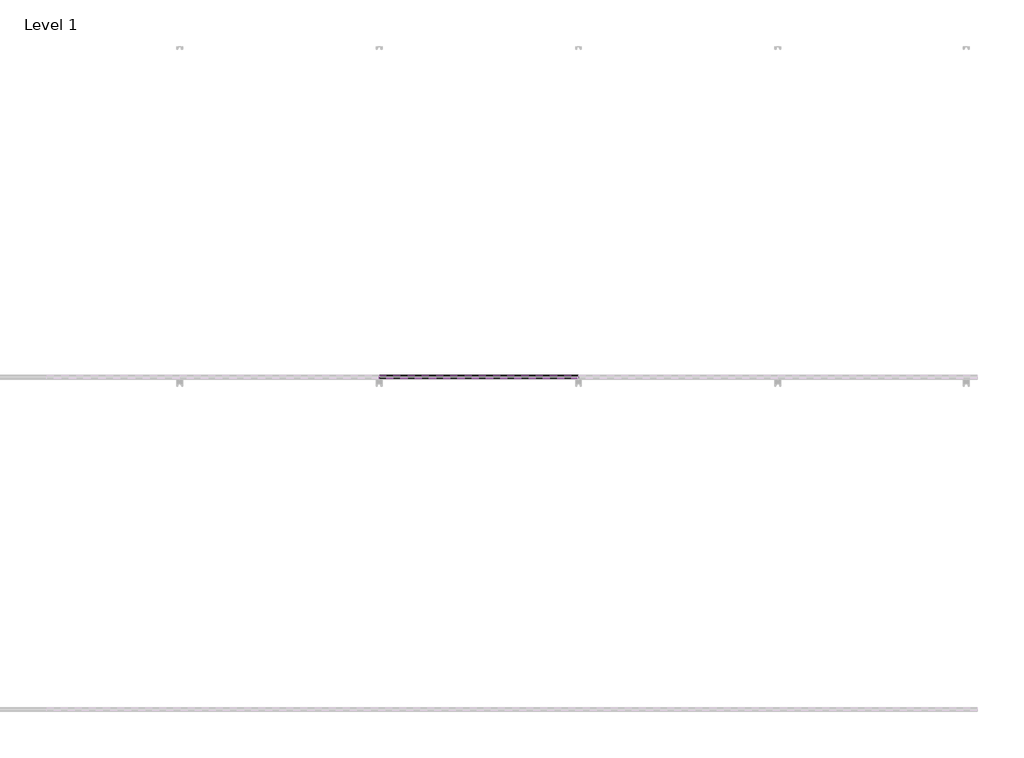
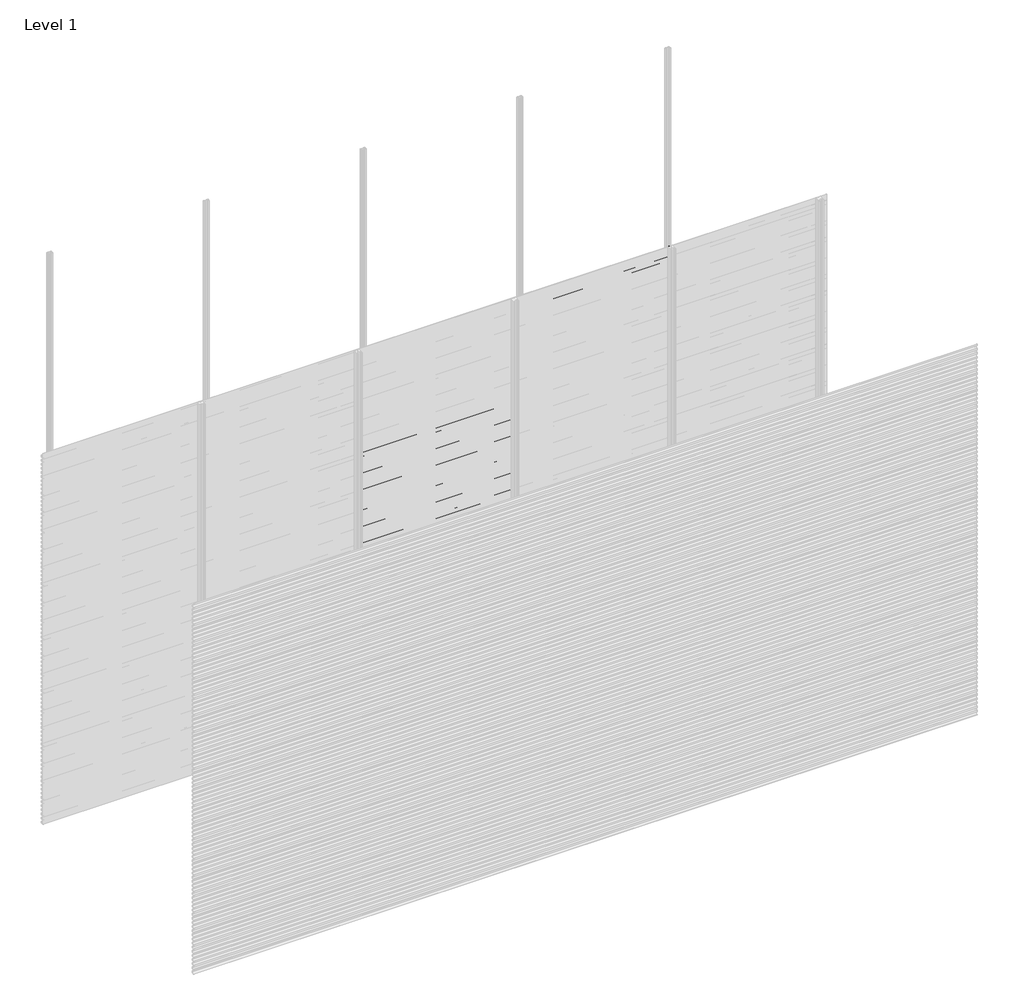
# One storey, part 60 of 77: 72 proxies.
"""IFC4 building model written with IfcOpenShell, lengths in millimetres."""

from ifc_helpers import new_model, si_unit, frame, origin, place, context, project, spatial, polyline, outline, extrude, element, save

model = new_model("IFC4")

# Units and contexts
model_context = context("Model", 3, world=origin())
ifc_project = project(units=[si_unit("LENGTHUNIT", "METRE", prefix="MILLI")], contexts=[model_context])

# Site, building, storey
site = spatial("IfcSite", under=ifc_project)
building = spatial("IfcBuilding", under=site)
storey = spatial("IfcBuildingStorey", under=building, Name="Level 1", Elevation=0.0)

# Proxies
placement = place(None, origin())
element("IfcBuildingElementProxy", 1, Name="Wall Sweeps", at=placement, inside=storey, context=model_context, shape_type="SweptSolid", body=[
    extrude(outline(polyline([(-11978.6, 2206.6359887), (-11998.0, 2217.8366691), (-11998.0, 2231.1), (-11997.0, 2231.1), (-11997.0, 2218.4191057), (-11977.6, 2207.2185105), (-11977.6, 2193.6185105), (-11978.6, 2195.1953129), (-11978.6, 2201.0032062), (-11995.9773817, 2192.9), (-11996.4, 2193.8063078), (-11978.6, 2202.1065841), (-11978.6, 2206.6359887)])), frame((2400.0, 0.0, 0.0), z_axis=(1.0, 0.0, 0.0), x_axis=(0.0, 1.0, 0.0)), (0.0, 0.0, 1.0), 1200.0),
])
element("IfcBuildingElementProxy", 2, Name="Wall Sweeps", at=placement, inside=storey, context=model_context, shape_type="SweptSolid", body=[
    extrude(outline(polyline([(-11978.6, 2173.3359887), (-11998.0, 2184.5366691), (-11998.0, 2197.8), (-11997.0, 2197.8), (-11997.0, 2185.1191057), (-11977.6, 2173.9185105), (-11977.6, 2160.3185105), (-11978.6, 2161.8953129), (-11978.6, 2167.7032062), (-11995.9773817, 2159.6), (-11996.4, 2160.5063078), (-11978.6, 2168.8065841), (-11978.6, 2173.3359887)])), frame((2400.0, 0.0, 0.0), z_axis=(1.0, 0.0, 0.0), x_axis=(0.0, 1.0, 0.0)), (0.0, 0.0, 1.0), 1200.0),
])
element("IfcBuildingElementProxy", 3, Name="Wall Sweeps", at=placement, inside=storey, context=model_context, shape_type="SweptSolid", body=[
    extrude(outline(polyline([(-11978.6, 2140.0359887), (-11998.0, 2151.2366691), (-11998.0, 2164.5), (-11997.0, 2164.5), (-11997.0, 2151.8191057), (-11977.6, 2140.6185105), (-11977.6, 2127.0185105), (-11978.6, 2128.5953129), (-11978.6, 2134.4032062), (-11995.9773817, 2126.3), (-11996.4, 2127.2063078), (-11978.6, 2135.5065841), (-11978.6, 2140.0359887)])), frame((2400.0, 0.0, 0.0), z_axis=(1.0, 0.0, 0.0), x_axis=(0.0, 1.0, 0.0)), (0.0, 0.0, 1.0), 1200.0),
])
element("IfcBuildingElementProxy", 4, Name="Wall Sweeps", at=placement, inside=storey, context=model_context, shape_type="SweptSolid", body=[
    extrude(outline(polyline([(-11978.6, 2106.7359887), (-11998.0, 2117.9366691), (-11998.0, 2131.2), (-11997.0, 2131.2), (-11997.0, 2118.5191057), (-11977.6, 2107.3185105), (-11977.6, 2093.7185105), (-11978.6, 2095.2953129), (-11978.6, 2101.1032062), (-11995.9773817, 2093.0), (-11996.4, 2093.9063078), (-11978.6, 2102.2065841), (-11978.6, 2106.7359887)])), frame((2400.0, 0.0, 0.0), z_axis=(1.0, 0.0, 0.0), x_axis=(0.0, 1.0, 0.0)), (0.0, 0.0, 1.0), 1200.0),
])
element("IfcBuildingElementProxy", 5, Name="Wall Sweeps", at=placement, inside=storey, context=model_context, shape_type="SweptSolid", body=[
    extrude(outline(polyline([(-11978.6, 2073.4359887), (-11998.0, 2084.6366691), (-11998.0, 2097.9), (-11997.0, 2097.9), (-11997.0, 2085.2191057), (-11977.6, 2074.0185105), (-11977.6, 2060.4185105), (-11978.6, 2061.9953129), (-11978.6, 2067.8032062), (-11995.9773817, 2059.7), (-11996.4, 2060.6063078), (-11978.6, 2068.9065841), (-11978.6, 2073.4359887)])), frame((2400.0, 0.0, 0.0), z_axis=(1.0, 0.0, 0.0), x_axis=(0.0, 1.0, 0.0)), (0.0, 0.0, 1.0), 1200.0),
])
element("IfcBuildingElementProxy", 6, Name="Wall Sweeps", at=placement, inside=storey, context=model_context, shape_type="SweptSolid", body=[
    extrude(outline(polyline([(-11978.6, 2040.1359887), (-11998.0, 2051.3366691), (-11998.0, 2064.6), (-11997.0, 2064.6), (-11997.0, 2051.9191057), (-11977.6, 2040.7185105), (-11977.6, 2027.1185105), (-11978.6, 2028.6953129), (-11978.6, 2034.5032062), (-11995.9773817, 2026.4), (-11996.4, 2027.3063078), (-11978.6, 2035.6065841), (-11978.6, 2040.1359887)])), frame((2400.0, 0.0, 0.0), z_axis=(1.0, 0.0, 0.0), x_axis=(0.0, 1.0, 0.0)), (0.0, 0.0, 1.0), 1200.0),
])
element("IfcBuildingElementProxy", 7, Name="Wall Sweeps", at=placement, inside=storey, context=model_context, shape_type="SweptSolid", body=[
    extrude(outline(polyline([(-11978.6, 2006.8359887), (-11998.0, 2018.0366691), (-11998.0, 2031.3), (-11997.0, 2031.3), (-11997.0, 2018.6191057), (-11977.6, 2007.4185105), (-11977.6, 1993.8185105), (-11978.6, 1995.3953129), (-11978.6, 2001.2032062), (-11995.9773817, 1993.1), (-11996.4, 1994.0063078), (-11978.6, 2002.3065841), (-11978.6, 2006.8359887)])), frame((2400.0, 0.0, 0.0), z_axis=(1.0, 0.0, 0.0), x_axis=(0.0, 1.0, 0.0)), (0.0, 0.0, 1.0), 1200.0),
])
element("IfcBuildingElementProxy", 8, Name="Wall Sweeps", at=placement, inside=storey, context=model_context, shape_type="SweptSolid", body=[
    extrude(outline(polyline([(-11978.6, 1973.5359887), (-11998.0, 1984.7366691), (-11998.0, 1998.0), (-11997.0, 1998.0), (-11997.0, 1985.3191057), (-11977.6, 1974.1185105), (-11977.6, 1960.5185105), (-11978.6, 1962.0953129), (-11978.6, 1967.9032062), (-11995.9773817, 1959.8), (-11996.4, 1960.7063078), (-11978.6, 1969.0065841), (-11978.6, 1973.5359887)])), frame((2400.0, 0.0, 0.0), z_axis=(1.0, 0.0, 0.0), x_axis=(0.0, 1.0, 0.0)), (0.0, 0.0, 1.0), 1200.0),
])
element("IfcBuildingElementProxy", 9, Name="Wall Sweeps", at=placement, inside=storey, context=model_context, shape_type="SweptSolid", body=[
    extrude(outline(polyline([(-11978.6, 1940.2359887), (-11998.0, 1951.4366691), (-11998.0, 1964.7), (-11997.0, 1964.7), (-11997.0, 1952.0191057), (-11977.6, 1940.8185105), (-11977.6, 1927.2185105), (-11978.6, 1928.7953129), (-11978.6, 1934.6032062), (-11995.9773817, 1926.5), (-11996.4, 1927.4063078), (-11978.6, 1935.7065841), (-11978.6, 1940.2359887)])), frame((2400.0, 0.0, 0.0), z_axis=(1.0, 0.0, 0.0), x_axis=(0.0, 1.0, 0.0)), (0.0, 0.0, 1.0), 1200.0),
])
element("IfcBuildingElementProxy", 10, Name="Wall Sweeps", at=placement, inside=storey, context=model_context, shape_type="SweptSolid", body=[
    extrude(outline(polyline([(-11978.6, 1906.9359887), (-11998.0, 1918.1366691), (-11998.0, 1931.4), (-11997.0, 1931.4), (-11997.0, 1918.7191057), (-11977.6, 1907.5185105), (-11977.6, 1893.9185105), (-11978.6, 1895.4953129), (-11978.6, 1901.3032062), (-11995.9773817, 1893.2), (-11996.4, 1894.1063078), (-11978.6, 1902.4065841), (-11978.6, 1906.9359887)])), frame((2400.0, 0.0, 0.0), z_axis=(1.0, 0.0, 0.0), x_axis=(0.0, 1.0, 0.0)), (0.0, 0.0, 1.0), 1200.0),
])
element("IfcBuildingElementProxy", 11, Name="Wall Sweeps", at=placement, inside=storey, context=model_context, shape_type="SweptSolid", body=[
    extrude(outline(polyline([(-11978.6, 1873.6359887), (-11998.0, 1884.8366691), (-11998.0, 1898.1), (-11997.0, 1898.1), (-11997.0, 1885.4191057), (-11977.6, 1874.2185105), (-11977.6, 1860.6185105), (-11978.6, 1862.1953129), (-11978.6, 1868.0032062), (-11995.9773817, 1859.9), (-11996.4, 1860.8063078), (-11978.6, 1869.1065841), (-11978.6, 1873.6359887)])), frame((2400.0, 0.0, 0.0), z_axis=(1.0, 0.0, 0.0), x_axis=(0.0, 1.0, 0.0)), (0.0, 0.0, 1.0), 1200.0),
])
element("IfcBuildingElementProxy", 12, Name="Wall Sweeps", at=placement, inside=storey, context=model_context, shape_type="SweptSolid", body=[
    extrude(outline(polyline([(-11978.6, 1840.3359887), (-11998.0, 1851.5366691), (-11998.0, 1864.8), (-11997.0, 1864.8), (-11997.0, 1852.1191057), (-11977.6, 1840.9185105), (-11977.6, 1827.3185105), (-11978.6, 1828.8953129), (-11978.6, 1834.7032062), (-11995.9773817, 1826.6), (-11996.4, 1827.5063078), (-11978.6, 1835.8065841), (-11978.6, 1840.3359887)])), frame((2400.0, 0.0, 0.0), z_axis=(1.0, 0.0, 0.0), x_axis=(0.0, 1.0, 0.0)), (0.0, 0.0, 1.0), 1200.0),
])
element("IfcBuildingElementProxy", 13, Name="Wall Sweeps", at=placement, inside=storey, context=model_context, shape_type="SweptSolid", body=[
    extrude(outline(polyline([(-11978.6, 1807.0359887), (-11998.0, 1818.2366691), (-11998.0, 1831.5), (-11997.0, 1831.5), (-11997.0, 1818.8191057), (-11977.6, 1807.6185105), (-11977.6, 1794.0185105), (-11978.6, 1795.5953129), (-11978.6, 1801.4032062), (-11995.9773817, 1793.3), (-11996.4, 1794.2063078), (-11978.6, 1802.5065841), (-11978.6, 1807.0359887)])), frame((2400.0, 0.0, 0.0), z_axis=(1.0, 0.0, 0.0), x_axis=(0.0, 1.0, 0.0)), (0.0, 0.0, 1.0), 1200.0),
])
element("IfcBuildingElementProxy", 14, Name="Wall Sweeps", at=placement, inside=storey, context=model_context, shape_type="SweptSolid", body=[
    extrude(outline(polyline([(-11978.6, 1773.7359887), (-11998.0, 1784.9366691), (-11998.0, 1798.2), (-11997.0, 1798.2), (-11997.0, 1785.5191057), (-11977.6, 1774.3185105), (-11977.6, 1760.7185105), (-11978.6, 1762.2953129), (-11978.6, 1768.1032062), (-11995.9773817, 1760.0), (-11996.4, 1760.9063078), (-11978.6, 1769.2065841), (-11978.6, 1773.7359887)])), frame((2400.0, 0.0, 0.0), z_axis=(1.0, 0.0, 0.0), x_axis=(0.0, 1.0, 0.0)), (0.0, 0.0, 1.0), 1200.0),
])
element("IfcBuildingElementProxy", 15, Name="Wall Sweeps", at=placement, inside=storey, context=model_context, shape_type="SweptSolid", body=[
    extrude(outline(polyline([(-11978.6, 1740.4359887), (-11998.0, 1751.6366691), (-11998.0, 1764.9), (-11997.0, 1764.9), (-11997.0, 1752.2191057), (-11977.6, 1741.0185105), (-11977.6, 1727.4185105), (-11978.6, 1728.9953129), (-11978.6, 1734.8032062), (-11995.9773817, 1726.7), (-11996.4, 1727.6063078), (-11978.6, 1735.9065841), (-11978.6, 1740.4359887)])), frame((2400.0, 0.0, 0.0), z_axis=(1.0, 0.0, 0.0), x_axis=(0.0, 1.0, 0.0)), (0.0, 0.0, 1.0), 1200.0),
])
element("IfcBuildingElementProxy", 16, Name="Wall Sweeps", at=placement, inside=storey, context=model_context, shape_type="SweptSolid", body=[
    extrude(outline(polyline([(-11978.6, 1707.1359887), (-11998.0, 1718.3366691), (-11998.0, 1731.6), (-11997.0, 1731.6), (-11997.0, 1718.9191057), (-11977.6, 1707.7185105), (-11977.6, 1694.1185105), (-11978.6, 1695.6953129), (-11978.6, 1701.5032062), (-11995.9773817, 1693.4), (-11996.4, 1694.3063078), (-11978.6, 1702.6065841), (-11978.6, 1707.1359887)])), frame((2400.0, 0.0, 0.0), z_axis=(1.0, 0.0, 0.0), x_axis=(0.0, 1.0, 0.0)), (0.0, 0.0, 1.0), 1200.0),
])
element("IfcBuildingElementProxy", 17, Name="Wall Sweeps", at=placement, inside=storey, context=model_context, shape_type="SweptSolid", body=[
    extrude(outline(polyline([(-11978.6, 1673.8359887), (-11998.0, 1685.0366691), (-11998.0, 1698.3), (-11997.0, 1698.3), (-11997.0, 1685.6191057), (-11977.6, 1674.4185105), (-11977.6, 1660.8185105), (-11978.6, 1662.3953129), (-11978.6, 1668.2032062), (-11995.9773817, 1660.1), (-11996.4, 1661.0063078), (-11978.6, 1669.3065841), (-11978.6, 1673.8359887)])), frame((2400.0, 0.0, 0.0), z_axis=(1.0, 0.0, 0.0), x_axis=(0.0, 1.0, 0.0)), (0.0, 0.0, 1.0), 1200.0),
])
element("IfcBuildingElementProxy", 18, Name="Wall Sweeps", at=placement, inside=storey, context=model_context, shape_type="SweptSolid", body=[
    extrude(outline(polyline([(-11978.6, 1640.5359887), (-11998.0, 1651.7366691), (-11998.0, 1665.0), (-11997.0, 1665.0), (-11997.0, 1652.3191057), (-11977.6, 1641.1185105), (-11977.6, 1627.5185105), (-11978.6, 1629.0953129), (-11978.6, 1634.9032062), (-11995.9773817, 1626.8), (-11996.4, 1627.7063078), (-11978.6, 1636.0065841), (-11978.6, 1640.5359887)])), frame((2400.0, 0.0, 0.0), z_axis=(1.0, 0.0, 0.0), x_axis=(0.0, 1.0, 0.0)), (0.0, 0.0, 1.0), 1200.0),
])
element("IfcBuildingElementProxy", 19, Name="Wall Sweeps", at=placement, inside=storey, context=model_context, shape_type="SweptSolid", body=[
    extrude(outline(polyline([(-11978.6, 1607.2359887), (-11998.0, 1618.4366691), (-11998.0, 1631.7), (-11997.0, 1631.7), (-11997.0, 1619.0191057), (-11977.6, 1607.8185105), (-11977.6, 1594.2185105), (-11978.6, 1595.7953129), (-11978.6, 1601.6032062), (-11995.9773817, 1593.5), (-11996.4, 1594.4063078), (-11978.6, 1602.7065841), (-11978.6, 1607.2359887)])), frame((2400.0, 0.0, 0.0), z_axis=(1.0, 0.0, 0.0), x_axis=(0.0, 1.0, 0.0)), (0.0, 0.0, 1.0), 1200.0),
])
element("IfcBuildingElementProxy", 20, Name="Wall Sweeps", at=placement, inside=storey, context=model_context, shape_type="SweptSolid", body=[
    extrude(outline(polyline([(-11978.6, 1573.9359887), (-11998.0, 1585.1366691), (-11998.0, 1598.4), (-11997.0, 1598.4), (-11997.0, 1585.7191057), (-11977.6, 1574.5185105), (-11977.6, 1560.9185105), (-11978.6, 1562.4953129), (-11978.6, 1568.3032062), (-11995.9773817, 1560.2), (-11996.4, 1561.1063078), (-11978.6, 1569.4065841), (-11978.6, 1573.9359887)])), frame((2400.0, 0.0, 0.0), z_axis=(1.0, 0.0, 0.0), x_axis=(0.0, 1.0, 0.0)), (0.0, 0.0, 1.0), 1200.0),
])
element("IfcBuildingElementProxy", 21, Name="Wall Sweeps", at=placement, inside=storey, context=model_context, shape_type="SweptSolid", body=[
    extrude(outline(polyline([(-11978.6, 1540.6359887), (-11998.0, 1551.8366691), (-11998.0, 1565.1), (-11997.0, 1565.1), (-11997.0, 1552.4191057), (-11977.6, 1541.2185105), (-11977.6, 1527.6185105), (-11978.6, 1529.1953129), (-11978.6, 1535.0032062), (-11995.9773817, 1526.9), (-11996.4, 1527.8063078), (-11978.6, 1536.1065841), (-11978.6, 1540.6359887)])), frame((2400.0, 0.0, 0.0), z_axis=(1.0, 0.0, 0.0), x_axis=(0.0, 1.0, 0.0)), (0.0, 0.0, 1.0), 1200.0),
])
element("IfcBuildingElementProxy", 22, Name="Wall Sweeps", at=placement, inside=storey, context=model_context, shape_type="SweptSolid", body=[
    extrude(outline(polyline([(-11978.6, 1507.3359887), (-11998.0, 1518.5366691), (-11998.0, 1531.8), (-11997.0, 1531.8), (-11997.0, 1519.1191057), (-11977.6, 1507.9185105), (-11977.6, 1494.3185105), (-11978.6, 1495.8953129), (-11978.6, 1501.7032062), (-11995.9773817, 1493.6), (-11996.4, 1494.5063078), (-11978.6, 1502.8065841), (-11978.6, 1507.3359887)])), frame((2400.0, 0.0, 0.0), z_axis=(1.0, 0.0, 0.0), x_axis=(0.0, 1.0, 0.0)), (0.0, 0.0, 1.0), 1200.0),
])
element("IfcBuildingElementProxy", 23, Name="Wall Sweeps", at=placement, inside=storey, context=model_context, shape_type="SweptSolid", body=[
    extrude(outline(polyline([(-11978.6, 1474.0359887), (-11998.0, 1485.2366691), (-11998.0, 1498.5), (-11997.0, 1498.5), (-11997.0, 1485.8191057), (-11977.6, 1474.6185105), (-11977.6, 1461.0185105), (-11978.6, 1462.5953129), (-11978.6, 1468.4032062), (-11995.9773817, 1460.3), (-11996.4, 1461.2063078), (-11978.6, 1469.5065841), (-11978.6, 1474.0359887)])), frame((2400.0, 0.0, 0.0), z_axis=(1.0, 0.0, 0.0), x_axis=(0.0, 1.0, 0.0)), (0.0, 0.0, 1.0), 1200.0),
])
element("IfcBuildingElementProxy", 24, Name="Wall Sweeps", at=placement, inside=storey, context=model_context, shape_type="SweptSolid", body=[
    extrude(outline(polyline([(-11978.6, 1440.7359887), (-11998.0, 1451.9366691), (-11998.0, 1465.2), (-11997.0, 1465.2), (-11997.0, 1452.5191057), (-11977.6, 1441.3185105), (-11977.6, 1427.7185105), (-11978.6, 1429.2953129), (-11978.6, 1435.1032062), (-11995.9773817, 1427.0), (-11996.4, 1427.9063078), (-11978.6, 1436.2065841), (-11978.6, 1440.7359887)])), frame((2400.0, 0.0, 0.0), z_axis=(1.0, 0.0, 0.0), x_axis=(0.0, 1.0, 0.0)), (0.0, 0.0, 1.0), 1200.0),
])
element("IfcBuildingElementProxy", 25, Name="Wall Sweeps", at=placement, inside=storey, context=model_context, shape_type="SweptSolid", body=[
    extrude(outline(polyline([(-11978.6, 1407.4359887), (-11998.0, 1418.6366691), (-11998.0, 1431.9), (-11997.0, 1431.9), (-11997.0, 1419.2191057), (-11977.6, 1408.0185105), (-11977.6, 1394.4185105), (-11978.6, 1395.9953129), (-11978.6, 1401.8032062), (-11995.9773817, 1393.7), (-11996.4, 1394.6063078), (-11978.6, 1402.9065841), (-11978.6, 1407.4359887)])), frame((2400.0, 0.0, 0.0), z_axis=(1.0, 0.0, 0.0), x_axis=(0.0, 1.0, 0.0)), (0.0, 0.0, 1.0), 1200.0),
])
element("IfcBuildingElementProxy", 26, Name="Wall Sweeps", at=placement, inside=storey, context=model_context, shape_type="SweptSolid", body=[
    extrude(outline(polyline([(-11978.6, 1374.1359887), (-11998.0, 1385.3366691), (-11998.0, 1398.6), (-11997.0, 1398.6), (-11997.0, 1385.9191057), (-11977.6, 1374.7185105), (-11977.6, 1361.1185105), (-11978.6, 1362.6953129), (-11978.6, 1368.5032062), (-11995.9773817, 1360.4), (-11996.4, 1361.3063078), (-11978.6, 1369.6065841), (-11978.6, 1374.1359887)])), frame((2400.0, 0.0, 0.0), z_axis=(1.0, 0.0, 0.0), x_axis=(0.0, 1.0, 0.0)), (0.0, 0.0, 1.0), 1200.0),
])
element("IfcBuildingElementProxy", 27, Name="Wall Sweeps", at=placement, inside=storey, context=model_context, shape_type="SweptSolid", body=[
    extrude(outline(polyline([(-11978.6, 1340.8359887), (-11998.0, 1352.0366691), (-11998.0, 1365.3), (-11997.0, 1365.3), (-11997.0, 1352.6191057), (-11977.6, 1341.4185105), (-11977.6, 1327.8185105), (-11978.6, 1329.3953129), (-11978.6, 1335.2032062), (-11995.9773817, 1327.1), (-11996.4, 1328.0063078), (-11978.6, 1336.3065841), (-11978.6, 1340.8359887)])), frame((2400.0, 0.0, 0.0), z_axis=(1.0, 0.0, 0.0), x_axis=(0.0, 1.0, 0.0)), (0.0, 0.0, 1.0), 1200.0),
])
element("IfcBuildingElementProxy", 28, Name="Wall Sweeps", at=placement, inside=storey, context=model_context, shape_type="SweptSolid", body=[
    extrude(outline(polyline([(-11978.6, 1307.5359887), (-11998.0, 1318.7366691), (-11998.0, 1332.0), (-11997.0, 1332.0), (-11997.0, 1319.3191057), (-11977.6, 1308.1185105), (-11977.6, 1294.5185105), (-11978.6, 1296.0953129), (-11978.6, 1301.9032062), (-11995.9773817, 1293.8), (-11996.4, 1294.7063078), (-11978.6, 1303.0065841), (-11978.6, 1307.5359887)])), frame((2400.0, 0.0, 0.0), z_axis=(1.0, 0.0, 0.0), x_axis=(0.0, 1.0, 0.0)), (0.0, 0.0, 1.0), 1200.0),
])
element("IfcBuildingElementProxy", 29, Name="Wall Sweeps", at=placement, inside=storey, context=model_context, shape_type="SweptSolid", body=[
    extrude(outline(polyline([(-11978.6, 1274.2359887), (-11998.0, 1285.4366691), (-11998.0, 1298.7), (-11997.0, 1298.7), (-11997.0, 1286.0191057), (-11977.6, 1274.8185105), (-11977.6, 1261.2185105), (-11978.6, 1262.7953129), (-11978.6, 1268.6032062), (-11995.9773817, 1260.5), (-11996.4, 1261.4063078), (-11978.6, 1269.7065841), (-11978.6, 1274.2359887)])), frame((2400.0, 0.0, 0.0), z_axis=(1.0, 0.0, 0.0), x_axis=(0.0, 1.0, 0.0)), (0.0, 0.0, 1.0), 1200.0),
])
element("IfcBuildingElementProxy", 30, Name="Wall Sweeps", at=placement, inside=storey, context=model_context, shape_type="SweptSolid", body=[
    extrude(outline(polyline([(-11978.6, 1240.9359887), (-11998.0, 1252.1366691), (-11998.0, 1265.4), (-11997.0, 1265.4), (-11997.0, 1252.7191057), (-11977.6, 1241.5185105), (-11977.6, 1227.9185105), (-11978.6, 1229.4953129), (-11978.6, 1235.3032062), (-11995.9773817, 1227.2), (-11996.4, 1228.1063078), (-11978.6, 1236.4065841), (-11978.6, 1240.9359887)])), frame((2400.0, 0.0, 0.0), z_axis=(1.0, 0.0, 0.0), x_axis=(0.0, 1.0, 0.0)), (0.0, 0.0, 1.0), 1200.0),
])
element("IfcBuildingElementProxy", 31, Name="Wall Sweeps", at=placement, inside=storey, context=model_context, shape_type="SweptSolid", body=[
    extrude(outline(polyline([(-11978.6, 1207.6359887), (-11998.0, 1218.8366691), (-11998.0, 1232.1), (-11997.0, 1232.1), (-11997.0, 1219.4191057), (-11977.6, 1208.2185105), (-11977.6, 1194.6185105), (-11978.6, 1196.1953129), (-11978.6, 1202.0032062), (-11995.9773817, 1193.9), (-11996.4, 1194.8063078), (-11978.6, 1203.1065841), (-11978.6, 1207.6359887)])), frame((2400.0, 0.0, 0.0), z_axis=(1.0, 0.0, 0.0), x_axis=(0.0, 1.0, 0.0)), (0.0, 0.0, 1.0), 1200.0),
])
element("IfcBuildingElementProxy", 32, Name="Wall Sweeps", at=placement, inside=storey, context=model_context, shape_type="SweptSolid", body=[
    extrude(outline(polyline([(-11978.6, 1174.3359887), (-11998.0, 1185.5366691), (-11998.0, 1198.8), (-11997.0, 1198.8), (-11997.0, 1186.1191057), (-11977.6, 1174.9185105), (-11977.6, 1161.3185105), (-11978.6, 1162.8953129), (-11978.6, 1168.7032062), (-11995.9773817, 1160.6), (-11996.4, 1161.5063078), (-11978.6, 1169.8065841), (-11978.6, 1174.3359887)])), frame((2400.0, 0.0, 0.0), z_axis=(1.0, 0.0, 0.0), x_axis=(0.0, 1.0, 0.0)), (0.0, 0.0, 1.0), 1200.0),
])
element("IfcBuildingElementProxy", 33, Name="Wall Sweeps", at=placement, inside=storey, context=model_context, shape_type="SweptSolid", body=[
    extrude(outline(polyline([(-11978.6, 1141.0359887), (-11998.0, 1152.2366691), (-11998.0, 1165.5), (-11997.0, 1165.5), (-11997.0, 1152.8191057), (-11977.6, 1141.6185105), (-11977.6, 1128.0185105), (-11978.6, 1129.5953129), (-11978.6, 1135.4032062), (-11995.9773817, 1127.3), (-11996.4, 1128.2063078), (-11978.6, 1136.5065841), (-11978.6, 1141.0359887)])), frame((2400.0, 0.0, 0.0), z_axis=(1.0, 0.0, 0.0), x_axis=(0.0, 1.0, 0.0)), (0.0, 0.0, 1.0), 1200.0),
])
element("IfcBuildingElementProxy", 34, Name="Wall Sweeps", at=placement, inside=storey, context=model_context, shape_type="SweptSolid", body=[
    extrude(outline(polyline([(-11978.6, 1107.7359887), (-11998.0, 1118.9366691), (-11998.0, 1132.2), (-11997.0, 1132.2), (-11997.0, 1119.5191057), (-11977.6, 1108.3185105), (-11977.6, 1094.7185105), (-11978.6, 1096.2953129), (-11978.6, 1102.1032062), (-11995.9773817, 1094.0), (-11996.4, 1094.9063078), (-11978.6, 1103.2065841), (-11978.6, 1107.7359887)])), frame((2400.0, 0.0, 0.0), z_axis=(1.0, 0.0, 0.0), x_axis=(0.0, 1.0, 0.0)), (0.0, 0.0, 1.0), 1200.0),
])
element("IfcBuildingElementProxy", 35, Name="Wall Sweeps", at=placement, inside=storey, context=model_context, shape_type="SweptSolid", body=[
    extrude(outline(polyline([(-11978.6, 1074.4359887), (-11998.0, 1085.6366691), (-11998.0, 1098.9), (-11997.0, 1098.9), (-11997.0, 1086.2191057), (-11977.6, 1075.0185105), (-11977.6, 1061.4185105), (-11978.6, 1062.9953129), (-11978.6, 1068.8032062), (-11995.9773817, 1060.7), (-11996.4, 1061.6063078), (-11978.6, 1069.9065841), (-11978.6, 1074.4359887)])), frame((2400.0, 0.0, 0.0), z_axis=(1.0, 0.0, 0.0), x_axis=(0.0, 1.0, 0.0)), (0.0, 0.0, 1.0), 1200.0),
])
element("IfcBuildingElementProxy", 36, Name="Wall Sweeps", at=placement, inside=storey, context=model_context, shape_type="SweptSolid", body=[
    extrude(outline(polyline([(-11978.6, 1041.1359887), (-11998.0, 1052.3366691), (-11998.0, 1065.6), (-11997.0, 1065.6), (-11997.0, 1052.9191057), (-11977.6, 1041.7185105), (-11977.6, 1028.1185105), (-11978.6, 1029.6953129), (-11978.6, 1035.5032062), (-11995.9773817, 1027.4), (-11996.4, 1028.3063078), (-11978.6, 1036.6065841), (-11978.6, 1041.1359887)])), frame((2400.0, 0.0, 0.0), z_axis=(1.0, 0.0, 0.0), x_axis=(0.0, 1.0, 0.0)), (0.0, 0.0, 1.0), 1200.0),
])
element("IfcBuildingElementProxy", 37, Name="Wall Sweeps", at=placement, inside=storey, context=model_context, shape_type="SweptSolid", body=[
    extrude(outline(polyline([(-11978.6, 1007.8359887), (-11998.0, 1019.0366691), (-11998.0, 1032.3), (-11997.0, 1032.3), (-11997.0, 1019.6191057), (-11977.6, 1008.4185105), (-11977.6, 994.8185105), (-11978.6, 996.3953129), (-11978.6, 1002.2032062), (-11995.9773817, 994.1), (-11996.4, 995.0063078), (-11978.6, 1003.3065841), (-11978.6, 1007.8359887)])), frame((2400.0, 0.0, 0.0), z_axis=(1.0, 0.0, 0.0), x_axis=(0.0, 1.0, 0.0)), (0.0, 0.0, 1.0), 1200.0),
])
element("IfcBuildingElementProxy", 38, Name="Wall Sweeps", at=placement, inside=storey, context=model_context, shape_type="SweptSolid", body=[
    extrude(outline(polyline([(-11978.6, 974.5359887), (-11998.0, 985.7366691), (-11998.0, 999.0), (-11997.0, 999.0), (-11997.0, 986.3191057), (-11977.6, 975.1185105), (-11977.6, 961.5185105), (-11978.6, 963.0953129), (-11978.6, 968.9032062), (-11995.9773817, 960.8), (-11996.4, 961.7063078), (-11978.6, 970.0065841), (-11978.6, 974.5359887)])), frame((2400.0, 0.0, 0.0), z_axis=(1.0, 0.0, 0.0), x_axis=(0.0, 1.0, 0.0)), (0.0, 0.0, 1.0), 1200.0),
])
element("IfcBuildingElementProxy", 39, Name="Wall Sweeps", at=placement, inside=storey, context=model_context, shape_type="SweptSolid", body=[
    extrude(outline(polyline([(-11978.6, 941.2359887), (-11998.0, 952.4366691), (-11998.0, 965.7), (-11997.0, 965.7), (-11997.0, 953.0191057), (-11977.6, 941.8185105), (-11977.6, 928.2185105), (-11978.6, 929.7953129), (-11978.6, 935.6032062), (-11995.9773817, 927.5), (-11996.4, 928.4063078), (-11978.6, 936.7065841), (-11978.6, 941.2359887)])), frame((2400.0, 0.0, 0.0), z_axis=(1.0, 0.0, 0.0), x_axis=(0.0, 1.0, 0.0)), (0.0, 0.0, 1.0), 1200.0),
])
element("IfcBuildingElementProxy", 40, Name="Wall Sweeps", at=placement, inside=storey, context=model_context, shape_type="SweptSolid", body=[
    extrude(outline(polyline([(-11978.6, 907.9359887), (-11998.0, 919.1366691), (-11998.0, 932.4), (-11997.0, 932.4), (-11997.0, 919.7191057), (-11977.6, 908.5185105), (-11977.6, 894.9185105), (-11978.6, 896.4953129), (-11978.6, 902.3032062), (-11995.9773817, 894.2), (-11996.4, 895.1063078), (-11978.6, 903.4065841), (-11978.6, 907.9359887)])), frame((2400.0, 0.0, 0.0), z_axis=(1.0, 0.0, 0.0), x_axis=(0.0, 1.0, 0.0)), (0.0, 0.0, 1.0), 1200.0),
])
element("IfcBuildingElementProxy", 41, Name="Wall Sweeps", at=placement, inside=storey, context=model_context, shape_type="SweptSolid", body=[
    extrude(outline(polyline([(-11978.6, 874.6359887), (-11998.0, 885.8366691), (-11998.0, 899.1), (-11997.0, 899.1), (-11997.0, 886.4191057), (-11977.6, 875.2185105), (-11977.6, 861.6185105), (-11978.6, 863.1953129), (-11978.6, 869.0032062), (-11995.9773817, 860.9), (-11996.4, 861.8063078), (-11978.6, 870.1065841), (-11978.6, 874.6359887)])), frame((2400.0, 0.0, 0.0), z_axis=(1.0, 0.0, 0.0), x_axis=(0.0, 1.0, 0.0)), (0.0, 0.0, 1.0), 1200.0),
])
element("IfcBuildingElementProxy", 42, Name="Wall Sweeps", at=placement, inside=storey, context=model_context, shape_type="SweptSolid", body=[
    extrude(outline(polyline([(-11978.6, 841.3359887), (-11998.0, 852.5366691), (-11998.0, 865.8), (-11997.0, 865.8), (-11997.0, 853.1191057), (-11977.6, 841.9185105), (-11977.6, 828.3185105), (-11978.6, 829.8953129), (-11978.6, 835.7032062), (-11995.9773817, 827.6), (-11996.4, 828.5063078), (-11978.6, 836.8065841), (-11978.6, 841.3359887)])), frame((2400.0, 0.0, 0.0), z_axis=(1.0, 0.0, 0.0), x_axis=(0.0, 1.0, 0.0)), (0.0, 0.0, 1.0), 1200.0),
])
element("IfcBuildingElementProxy", 43, Name="Wall Sweeps", at=placement, inside=storey, context=model_context, shape_type="SweptSolid", body=[
    extrude(outline(polyline([(-11978.6, 808.0359887), (-11998.0, 819.2366691), (-11998.0, 832.5), (-11997.0, 832.5), (-11997.0, 819.8191057), (-11977.6, 808.6185105), (-11977.6, 795.0185105), (-11978.6, 796.5953129), (-11978.6, 802.4032062), (-11995.9773817, 794.3), (-11996.4, 795.2063078), (-11978.6, 803.5065841), (-11978.6, 808.0359887)])), frame((2400.0, 0.0, 0.0), z_axis=(1.0, 0.0, 0.0), x_axis=(0.0, 1.0, 0.0)), (0.0, 0.0, 1.0), 1200.0),
])
element("IfcBuildingElementProxy", 44, Name="Wall Sweeps", at=placement, inside=storey, context=model_context, shape_type="SweptSolid", body=[
    extrude(outline(polyline([(-11978.6, 774.7359887), (-11998.0, 785.9366691), (-11998.0, 799.2), (-11997.0, 799.2), (-11997.0, 786.5191057), (-11977.6, 775.3185105), (-11977.6, 761.7185105), (-11978.6, 763.2953129), (-11978.6, 769.1032062), (-11995.9773817, 761.0), (-11996.4, 761.9063078), (-11978.6, 770.2065841), (-11978.6, 774.7359887)])), frame((2400.0, 0.0, 0.0), z_axis=(1.0, 0.0, 0.0), x_axis=(0.0, 1.0, 0.0)), (0.0, 0.0, 1.0), 1200.0),
])
element("IfcBuildingElementProxy", 45, Name="Wall Sweeps", at=placement, inside=storey, context=model_context, shape_type="SweptSolid", body=[
    extrude(outline(polyline([(-11978.6, 741.4359887), (-11998.0, 752.6366691), (-11998.0, 765.9), (-11997.0, 765.9), (-11997.0, 753.2191057), (-11977.6, 742.0185105), (-11977.6, 728.4185105), (-11978.6, 729.9953129), (-11978.6, 735.8032062), (-11995.9773817, 727.7), (-11996.4, 728.6063078), (-11978.6, 736.9065841), (-11978.6, 741.4359887)])), frame((2400.0, 0.0, 0.0), z_axis=(1.0, 0.0, 0.0), x_axis=(0.0, 1.0, 0.0)), (0.0, 0.0, 1.0), 1200.0),
])
element("IfcBuildingElementProxy", 46, Name="Wall Sweeps", at=placement, inside=storey, context=model_context, shape_type="SweptSolid", body=[
    extrude(outline(polyline([(-11978.6, 708.1359887), (-11998.0, 719.3366691), (-11998.0, 732.6), (-11997.0, 732.6), (-11997.0, 719.9191057), (-11977.6, 708.7185105), (-11977.6, 695.1185105), (-11978.6, 696.6953129), (-11978.6, 702.5032062), (-11995.9773817, 694.4), (-11996.4, 695.3063078), (-11978.6, 703.6065841), (-11978.6, 708.1359887)])), frame((2400.0, 0.0, 0.0), z_axis=(1.0, 0.0, 0.0), x_axis=(0.0, 1.0, 0.0)), (0.0, 0.0, 1.0), 1200.0),
])
element("IfcBuildingElementProxy", 47, Name="Wall Sweeps", at=placement, inside=storey, context=model_context, shape_type="SweptSolid", body=[
    extrude(outline(polyline([(-11978.6, 674.8359887), (-11998.0, 686.0366691), (-11998.0, 699.3), (-11997.0, 699.3), (-11997.0, 686.6191057), (-11977.6, 675.4185105), (-11977.6, 661.8185105), (-11978.6, 663.3953129), (-11978.6, 669.2032062), (-11995.9773817, 661.1), (-11996.4, 662.0063078), (-11978.6, 670.3065841), (-11978.6, 674.8359887)])), frame((2400.0, 0.0, 0.0), z_axis=(1.0, 0.0, 0.0), x_axis=(0.0, 1.0, 0.0)), (0.0, 0.0, 1.0), 1200.0),
])
element("IfcBuildingElementProxy", 48, Name="Wall Sweeps", at=placement, inside=storey, context=model_context, shape_type="SweptSolid", body=[
    extrude(outline(polyline([(-11978.6, 641.5359887), (-11998.0, 652.7366691), (-11998.0, 666.0), (-11997.0, 666.0), (-11997.0, 653.3191057), (-11977.6, 642.1185105), (-11977.6, 628.5185105), (-11978.6, 630.0953129), (-11978.6, 635.9032062), (-11995.9773817, 627.8), (-11996.4, 628.7063078), (-11978.6, 637.0065841), (-11978.6, 641.5359887)])), frame((2400.0, 0.0, 0.0), z_axis=(1.0, 0.0, 0.0), x_axis=(0.0, 1.0, 0.0)), (0.0, 0.0, 1.0), 1200.0),
])
element("IfcBuildingElementProxy", 49, Name="Wall Sweeps", at=placement, inside=storey, context=model_context, shape_type="SweptSolid", body=[
    extrude(outline(polyline([(-11978.6, 608.2359887), (-11998.0, 619.4366691), (-11998.0, 632.7), (-11997.0, 632.7), (-11997.0, 620.0191057), (-11977.6, 608.8185105), (-11977.6, 595.2185105), (-11978.6, 596.7953129), (-11978.6, 602.6032062), (-11995.9773817, 594.5), (-11996.4, 595.4063078), (-11978.6, 603.7065841), (-11978.6, 608.2359887)])), frame((2400.0, 0.0, 0.0), z_axis=(1.0, 0.0, 0.0), x_axis=(0.0, 1.0, 0.0)), (0.0, 0.0, 1.0), 1200.0),
])
element("IfcBuildingElementProxy", 50, Name="Wall Sweeps", at=placement, inside=storey, context=model_context, shape_type="SweptSolid", body=[
    extrude(outline(polyline([(-11978.6, 574.9359887), (-11998.0, 586.1366691), (-11998.0, 599.4), (-11997.0, 599.4), (-11997.0, 586.7191057), (-11977.6, 575.5185105), (-11977.6, 561.9185105), (-11978.6, 563.4953129), (-11978.6, 569.3032062), (-11995.9773817, 561.2), (-11996.4, 562.1063078), (-11978.6, 570.4065841), (-11978.6, 574.9359887)])), frame((2400.0, 0.0, 0.0), z_axis=(1.0, 0.0, 0.0), x_axis=(0.0, 1.0, 0.0)), (0.0, 0.0, 1.0), 1200.0),
])
element("IfcBuildingElementProxy", 51, Name="Wall Sweeps", at=placement, inside=storey, context=model_context, shape_type="SweptSolid", body=[
    extrude(outline(polyline([(-11978.6, 541.6359887), (-11998.0, 552.8366691), (-11998.0, 566.1), (-11997.0, 566.1), (-11997.0, 553.4191057), (-11977.6, 542.2185105), (-11977.6, 528.6185105), (-11978.6, 530.1953129), (-11978.6, 536.0032062), (-11995.9773817, 527.9), (-11996.4, 528.8063078), (-11978.6, 537.1065841), (-11978.6, 541.6359887)])), frame((2400.0, 0.0, 0.0), z_axis=(1.0, 0.0, 0.0), x_axis=(0.0, 1.0, 0.0)), (0.0, 0.0, 1.0), 1200.0),
])
element("IfcBuildingElementProxy", 52, Name="Wall Sweeps", at=placement, inside=storey, context=model_context, shape_type="SweptSolid", body=[
    extrude(outline(polyline([(-11978.6, 508.3359887), (-11998.0, 519.5366691), (-11998.0, 532.8), (-11997.0, 532.8), (-11997.0, 520.1191057), (-11977.6, 508.9185105), (-11977.6, 495.3185105), (-11978.6, 496.8953129), (-11978.6, 502.7032062), (-11995.9773817, 494.6), (-11996.4, 495.5063078), (-11978.6, 503.8065841), (-11978.6, 508.3359887)])), frame((2400.0, 0.0, 0.0), z_axis=(1.0, 0.0, 0.0), x_axis=(0.0, 1.0, 0.0)), (0.0, 0.0, 1.0), 1200.0),
])
element("IfcBuildingElementProxy", 53, Name="Wall Sweeps", at=placement, inside=storey, context=model_context, shape_type="SweptSolid", body=[
    extrude(outline(polyline([(-11978.6, 475.0359887), (-11998.0, 486.2366691), (-11998.0, 499.5), (-11997.0, 499.5), (-11997.0, 486.8191057), (-11977.6, 475.6185105), (-11977.6, 462.0185105), (-11978.6, 463.5953129), (-11978.6, 469.4032062), (-11995.9773817, 461.3), (-11996.4, 462.2063078), (-11978.6, 470.5065841), (-11978.6, 475.0359887)])), frame((2400.0, 0.0, 0.0), z_axis=(1.0, 0.0, 0.0), x_axis=(0.0, 1.0, 0.0)), (0.0, 0.0, 1.0), 1200.0),
])
element("IfcBuildingElementProxy", 54, Name="Wall Sweeps", at=placement, inside=storey, context=model_context, shape_type="SweptSolid", body=[
    extrude(outline(polyline([(-11978.6, 441.7359887), (-11998.0, 452.9366691), (-11998.0, 466.2), (-11997.0, 466.2), (-11997.0, 453.5191057), (-11977.6, 442.3185105), (-11977.6, 428.7185105), (-11978.6, 430.2953129), (-11978.6, 436.1032062), (-11995.9773817, 428.0), (-11996.4, 428.9063078), (-11978.6, 437.2065841), (-11978.6, 441.7359887)])), frame((2400.0, 0.0, 0.0), z_axis=(1.0, 0.0, 0.0), x_axis=(0.0, 1.0, 0.0)), (0.0, 0.0, 1.0), 1200.0),
])
element("IfcBuildingElementProxy", 55, Name="Wall Sweeps", at=placement, inside=storey, context=model_context, shape_type="SweptSolid", body=[
    extrude(outline(polyline([(-11978.6, 408.4359887), (-11998.0, 419.6366691), (-11998.0, 432.9), (-11997.0, 432.9), (-11997.0, 420.2191057), (-11977.6, 409.0185105), (-11977.6, 395.4185105), (-11978.6, 396.9953129), (-11978.6, 402.8032062), (-11995.9773817, 394.7), (-11996.4, 395.6063078), (-11978.6, 403.9065841), (-11978.6, 408.4359887)])), frame((2400.0, 0.0, 0.0), z_axis=(1.0, 0.0, 0.0), x_axis=(0.0, 1.0, 0.0)), (0.0, 0.0, 1.0), 1200.0),
])
element("IfcBuildingElementProxy", 56, Name="Wall Sweeps", at=placement, inside=storey, context=model_context, shape_type="SweptSolid", body=[
    extrude(outline(polyline([(-11978.6, 375.1359887), (-11998.0, 386.3366691), (-11998.0, 399.6), (-11997.0, 399.6), (-11997.0, 386.9191057), (-11977.6, 375.7185105), (-11977.6, 362.1185105), (-11978.6, 363.6953129), (-11978.6, 369.5032062), (-11995.9773817, 361.4), (-11996.4, 362.3063078), (-11978.6, 370.6065841), (-11978.6, 375.1359887)])), frame((2400.0, 0.0, 0.0), z_axis=(1.0, 0.0, 0.0), x_axis=(0.0, 1.0, 0.0)), (0.0, 0.0, 1.0), 1200.0),
])
element("IfcBuildingElementProxy", 57, Name="Wall Sweeps", at=placement, inside=storey, context=model_context, shape_type="SweptSolid", body=[
    extrude(outline(polyline([(-11978.6, 341.8359887), (-11998.0, 353.0366691), (-11998.0, 366.3), (-11997.0, 366.3), (-11997.0, 353.6191057), (-11977.6, 342.4185105), (-11977.6, 328.8185105), (-11978.6, 330.3953129), (-11978.6, 336.2032062), (-11995.9773817, 328.1), (-11996.4, 329.0063078), (-11978.6, 337.3065841), (-11978.6, 341.8359887)])), frame((2400.0, 0.0, 0.0), z_axis=(1.0, 0.0, 0.0), x_axis=(0.0, 1.0, 0.0)), (0.0, 0.0, 1.0), 1200.0),
])
element("IfcBuildingElementProxy", 58, Name="Wall Sweeps", at=placement, inside=storey, context=model_context, shape_type="SweptSolid", body=[
    extrude(outline(polyline([(-11978.6, 308.5359887), (-11998.0, 319.7366691), (-11998.0, 333.0), (-11997.0, 333.0), (-11997.0, 320.3191057), (-11977.6, 309.1185105), (-11977.6, 295.5185105), (-11978.6, 297.0953129), (-11978.6, 302.9032062), (-11995.9773817, 294.8), (-11996.4, 295.7063078), (-11978.6, 304.0065841), (-11978.6, 308.5359887)])), frame((2400.0, 0.0, 0.0), z_axis=(1.0, 0.0, 0.0), x_axis=(0.0, 1.0, 0.0)), (0.0, 0.0, 1.0), 1200.0),
])
element("IfcBuildingElementProxy", 59, Name="Wall Sweeps", at=placement, inside=storey, context=model_context, shape_type="SweptSolid", body=[
    extrude(outline(polyline([(-11978.6, 275.2359887), (-11998.0, 286.4366691), (-11998.0, 299.7), (-11997.0, 299.7), (-11997.0, 287.0191057), (-11977.6, 275.8185105), (-11977.6, 262.2185105), (-11978.6, 263.7953129), (-11978.6, 269.6032062), (-11995.9773817, 261.5), (-11996.4, 262.4063078), (-11978.6, 270.7065841), (-11978.6, 275.2359887)])), frame((2400.0, 0.0, 0.0), z_axis=(1.0, 0.0, 0.0), x_axis=(0.0, 1.0, 0.0)), (0.0, 0.0, 1.0), 1200.0),
])
element("IfcBuildingElementProxy", 60, Name="Wall Sweeps", at=placement, inside=storey, context=model_context, shape_type="SweptSolid", body=[
    extrude(outline(polyline([(-11978.6, 241.9359887), (-11998.0, 253.1366691), (-11998.0, 266.4), (-11997.0, 266.4), (-11997.0, 253.7191057), (-11977.6, 242.5185105), (-11977.6, 228.9185105), (-11978.6, 230.4953129), (-11978.6, 236.3032062), (-11995.9773817, 228.2), (-11996.4, 229.1063078), (-11978.6, 237.4065841), (-11978.6, 241.9359887)])), frame((2400.0, 0.0, 0.0), z_axis=(1.0, 0.0, 0.0), x_axis=(0.0, 1.0, 0.0)), (0.0, 0.0, 1.0), 1200.0),
])
element("IfcBuildingElementProxy", 61, Name="Wall Sweeps", at=placement, inside=storey, context=model_context, shape_type="SweptSolid", body=[
    extrude(outline(polyline([(-11978.6, 208.6359887), (-11998.0, 219.8366691), (-11998.0, 233.1), (-11997.0, 233.1), (-11997.0, 220.4191057), (-11977.6, 209.2185105), (-11977.6, 195.6185105), (-11978.6, 197.1953129), (-11978.6, 203.0032062), (-11995.9773817, 194.9), (-11996.4, 195.8063078), (-11978.6, 204.1065841), (-11978.6, 208.6359887)])), frame((2400.0, 0.0, 0.0), z_axis=(1.0, 0.0, 0.0), x_axis=(0.0, 1.0, 0.0)), (0.0, 0.0, 1.0), 1200.0),
])
element("IfcBuildingElementProxy", 62, Name="Wall Sweeps", at=placement, inside=storey, context=model_context, shape_type="SweptSolid", body=[
    extrude(outline(polyline([(-11978.6, 175.3359887), (-11998.0, 186.5366691), (-11998.0, 199.8), (-11997.0, 199.8), (-11997.0, 187.1191057), (-11977.6, 175.9185105), (-11977.6, 162.3185105), (-11978.6, 163.8953129), (-11978.6, 169.7032062), (-11995.9773817, 161.6), (-11996.4, 162.5063078), (-11978.6, 170.8065841), (-11978.6, 175.3359887)])), frame((2400.0, 0.0, 0.0), z_axis=(1.0, 0.0, 0.0), x_axis=(0.0, 1.0, 0.0)), (0.0, 0.0, 1.0), 1200.0),
])
element("IfcBuildingElementProxy", 63, Name="Wall Sweeps", at=placement, inside=storey, context=model_context, shape_type="SweptSolid", body=[
    extrude(outline(polyline([(-11978.6, 142.0359887), (-11998.0, 153.2366691), (-11998.0, 166.5), (-11997.0, 166.5), (-11997.0, 153.8191057), (-11977.6, 142.6185105), (-11977.6, 129.0185105), (-11978.6, 130.5953129), (-11978.6, 136.4032062), (-11995.9773817, 128.3), (-11996.4, 129.2063078), (-11978.6, 137.5065841), (-11978.6, 142.0359887)])), frame((2400.0, 0.0, 0.0), z_axis=(1.0, 0.0, 0.0), x_axis=(0.0, 1.0, 0.0)), (0.0, 0.0, 1.0), 1200.0),
])
element("IfcBuildingElementProxy", 64, Name="Wall Sweeps", at=placement, inside=storey, context=model_context, shape_type="SweptSolid", body=[
    extrude(outline(polyline([(-11978.6, 108.7359887), (-11998.0, 119.9366691), (-11998.0, 133.2), (-11997.0, 133.2), (-11997.0, 120.5191057), (-11977.6, 109.3185105), (-11977.6, 95.7185105), (-11978.6, 97.2953129), (-11978.6, 103.1032062), (-11995.9773817, 95.0), (-11996.4, 95.9063078), (-11978.6, 104.2065841), (-11978.6, 108.7359887)])), frame((2400.0, 0.0, 0.0), z_axis=(1.0, 0.0, 0.0), x_axis=(0.0, 1.0, 0.0)), (0.0, 0.0, 1.0), 1200.0),
])
element("IfcBuildingElementProxy", 65, Name="Wall Sweeps", at=placement, inside=storey, context=model_context, shape_type="SweptSolid", body=[
    extrude(outline(polyline([(-11978.6, 75.4359887), (-11998.0, 86.6366691), (-11998.0, 99.9), (-11997.0, 99.9), (-11997.0, 87.2191057), (-11977.6, 76.0185105), (-11977.6, 62.4185105), (-11978.6, 63.9953129), (-11978.6, 69.8032062), (-11995.9773817, 61.7), (-11996.4, 62.6063078), (-11978.6, 70.9065841), (-11978.6, 75.4359887)])), frame((2400.0, 0.0, 0.0), z_axis=(1.0, 0.0, 0.0), x_axis=(0.0, 1.0, 0.0)), (0.0, 0.0, 1.0), 1200.0),
])
element("IfcBuildingElementProxy", 66, Name="Wall Sweeps", at=placement, inside=storey, context=model_context, shape_type="SweptSolid", body=[
    extrude(outline(polyline([(-11978.6, 42.1359887), (-11998.0, 53.3366691), (-11998.0, 66.6), (-11997.0, 66.6), (-11997.0, 53.9191057), (-11977.6, 42.7185105), (-11977.6, 29.1185105), (-11978.6, 30.6953129), (-11978.6, 36.5032062), (-11995.9773817, 28.4), (-11996.4, 29.3063078), (-11978.6, 37.6065841), (-11978.6, 42.1359887)])), frame((2400.0, 0.0, 0.0), z_axis=(1.0, 0.0, 0.0), x_axis=(0.0, 1.0, 0.0)), (0.0, 0.0, 1.0), 1200.0),
])
element("IfcBuildingElementProxy", 67, Name="Wall Sweeps", at=placement, inside=storey, context=model_context, shape_type="SweptSolid", body=[
    extrude(outline(polyline([(-11978.6, 8.8359887), (-11998.0, 20.0366691), (-11998.0, 33.3), (-11997.0, 33.3), (-11997.0, 20.6191057), (-11977.6, 9.4185105), (-11977.6, -4.1814895), (-11978.6, -2.6046871), (-11978.6, 3.2032062), (-11995.9773817, -4.9), (-11996.4, -3.9936922), (-11978.6, 4.3065841), (-11978.6, 8.8359887)])), frame((2400.0, 0.0, 0.0), z_axis=(1.0, 0.0, 0.0), x_axis=(0.0, 1.0, 0.0)), (0.0, 0.0, 1.0), 1200.0),
])
element("IfcBuildingElementProxy", 68, Name="Wall Sweeps", at=placement, inside=storey, context=model_context, shape_type="SweptSolid", body=[
    extrude(outline(polyline([(-11978.6, 2972.5359887), (-11998.0, 2983.7366691), (-11998.0, 2997.0), (-11997.0, 2997.0), (-11997.0, 2984.3191057), (-11977.6, 2973.1185105), (-11977.6, 2959.5185105), (-11978.6, 2961.0953129), (-11978.6, 2966.9032062), (-11995.9773817, 2958.8), (-11996.4, 2959.7063078), (-11978.6, 2968.0065841), (-11978.6, 2972.5359887)])), frame((3600.0, 0.0, 0.0), z_axis=(1.0, 0.0, 0.0), x_axis=(0.0, 1.0, 0.0)), (0.0, 0.0, 1.0), 1200.0),
])
element("IfcBuildingElementProxy", 69, Name="Wall Sweeps", at=placement, inside=storey, context=model_context, shape_type="SweptSolid", body=[
    extrude(outline(polyline([(-11978.6, 2939.2359887), (-11998.0, 2950.4366691), (-11998.0, 2963.7), (-11997.0, 2963.7), (-11997.0, 2951.0191057), (-11977.6, 2939.8185105), (-11977.6, 2926.2185105), (-11978.6, 2927.7953129), (-11978.6, 2933.6032062), (-11995.9773817, 2925.5), (-11996.4, 2926.4063078), (-11978.6, 2934.7065841), (-11978.6, 2939.2359887)])), frame((3600.0, 0.0, 0.0), z_axis=(1.0, 0.0, 0.0), x_axis=(0.0, 1.0, 0.0)), (0.0, 0.0, 1.0), 1200.0),
])
element("IfcBuildingElementProxy", 70, Name="Wall Sweeps", at=placement, inside=storey, context=model_context, shape_type="SweptSolid", body=[
    extrude(outline(polyline([(-11978.6, 2905.9359887), (-11998.0, 2917.1366691), (-11998.0, 2930.4), (-11997.0, 2930.4), (-11997.0, 2917.7191057), (-11977.6, 2906.5185105), (-11977.6, 2892.9185105), (-11978.6, 2894.4953129), (-11978.6, 2900.3032062), (-11995.9773817, 2892.2), (-11996.4, 2893.1063078), (-11978.6, 2901.4065841), (-11978.6, 2905.9359887)])), frame((3600.0, 0.0, 0.0), z_axis=(1.0, 0.0, 0.0), x_axis=(0.0, 1.0, 0.0)), (0.0, 0.0, 1.0), 1200.0),
])
element("IfcBuildingElementProxy", 71, Name="Wall Sweeps", at=placement, inside=storey, context=model_context, shape_type="SweptSolid", body=[
    extrude(outline(polyline([(-11978.6, 2872.6359887), (-11998.0, 2883.8366691), (-11998.0, 2897.1), (-11997.0, 2897.1), (-11997.0, 2884.4191057), (-11977.6, 2873.2185105), (-11977.6, 2859.6185105), (-11978.6, 2861.1953129), (-11978.6, 2867.0032062), (-11995.9773817, 2858.9), (-11996.4, 2859.8063078), (-11978.6, 2868.1065841), (-11978.6, 2872.6359887)])), frame((3600.0, 0.0, 0.0), z_axis=(1.0, 0.0, 0.0), x_axis=(0.0, 1.0, 0.0)), (0.0, 0.0, 1.0), 1200.0),
])
element("IfcBuildingElementProxy", 72, Name="Wall Sweeps", at=placement, inside=storey, context=model_context, shape_type="SweptSolid", body=[
    extrude(outline(polyline([(-11978.6, 2839.3359887), (-11998.0, 2850.5366691), (-11998.0, 2863.8), (-11997.0, 2863.8), (-11997.0, 2851.1191057), (-11977.6, 2839.9185105), (-11977.6, 2826.3185105), (-11978.6, 2827.8953129), (-11978.6, 2833.7032062), (-11995.9773817, 2825.6), (-11996.4, 2826.5063078), (-11978.6, 2834.8065841), (-11978.6, 2839.3359887)])), frame((3600.0, 0.0, 0.0), z_axis=(1.0, 0.0, 0.0), x_axis=(0.0, 1.0, 0.0)), (0.0, 0.0, 1.0), 1200.0),
])

save(model, "model.ifc")
